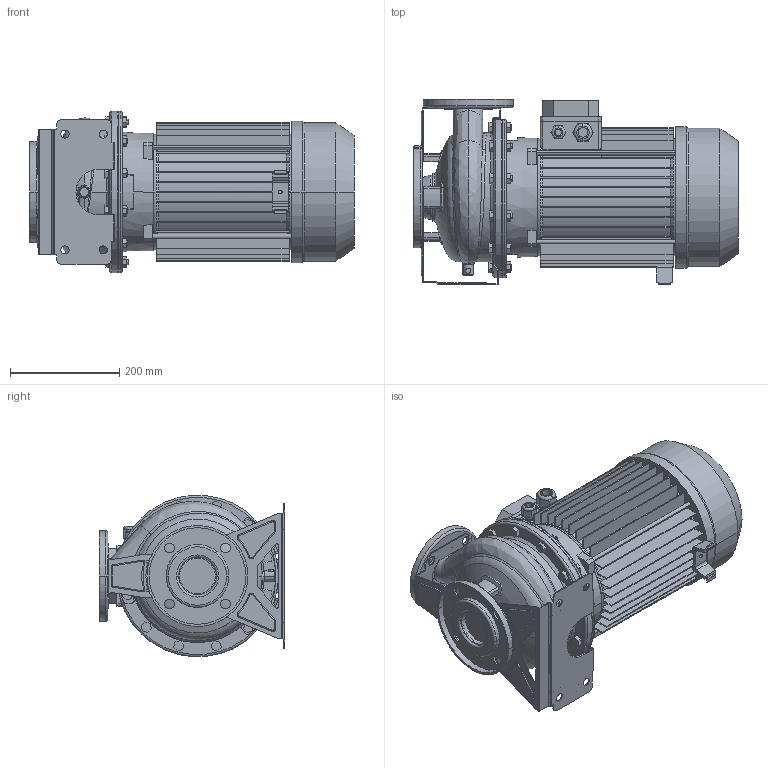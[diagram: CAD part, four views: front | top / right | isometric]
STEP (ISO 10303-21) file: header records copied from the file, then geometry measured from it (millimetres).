
FILE_DESCRIPTION((''),'2;1');
FILE_NAME('3M_50-160_116_E_ASM','2011-07-06T',('Utente'),('"Ebara Pumps Europe +39.444.706811"'),'PRO/ENGINEER BY PARAMETRIC TECHNOLOGY CORPORATION, 2009360','PRO/ENGINEER BY PARAMETRIC TECHNOLOGY CORPORATION, 2009360','');
FILE_SCHEMA(('AUTOMOTIVE_DESIGN { 1 0 10303 214 1 1 1 1 }'));
Length unit declared in the file: millimetre
Products named in the file (11): MEC_132X170_190_IE2; SUPPORTO_3M_230_132; CORPO_50-160; ASP_50-160; FLANGIA_DIN_65; MAND_50-160; FLANGIA_DIN_50; BASE_3M_50-160; CORPO_SALDATO_50-160_ASM; SOSTEGNO_72010; 3M_50-160_116_E_ASM
Assembly tree (10 placements, depth 3):
  3M_50-160_116_E_ASM
    MEC_132X170_190_IE2
    SUPPORTO_3M_230_132
    CORPO_SALDATO_50-160_ASM
      CORPO_50-160
      ASP_50-160
      FLANGIA_DIN_65
      MAND_50-160
      FLANGIA_DIN_50
      BASE_3M_50-160
    SOSTEGNO_72010
Bounding box: 595 x 340 x 295.13 mm (x, y, z)
Volume: 16423627.4 mm3; surface area: 1803366.7 mm2
Topology: 12 solids, 12 shells, 1128 faces, 2855 edges, 1826 vertices
Faces by surface type: plane 619, cylinder 314, cone 94, torus 62, bspline 33, sphere 6
Entity records: 49417 total; most frequent: CARTESIAN_POINT 10070, DIRECTION 5838, ORIENTED_EDGE 5710, PRESENTATION_STYLE_ASSIGNMENT 2867, STYLED_ITEM 2867, CURVE_STYLE 2855, EDGE_CURVE 2855, AXIS2_PLACEMENT_3D 2103
